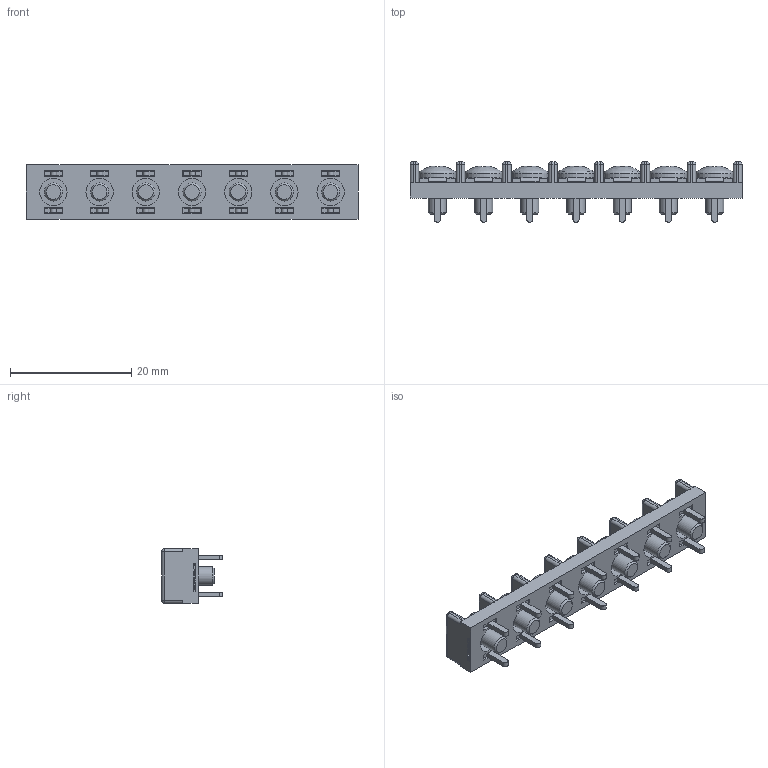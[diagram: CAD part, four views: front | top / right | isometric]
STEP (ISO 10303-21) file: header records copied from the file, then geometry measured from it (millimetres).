
FILE_DESCRIPTION(/* description */ ('Alibre Inc.'),/* implementation_level */ '2;1');
FILE_NAME(/* name */ 'export0',/* time_stamp */ '2015-11-28T15:41:59+09:00',/* author */ (''),/* organization */ (''),/* preprocessor_version */ 'ST-DEVELOPER v14',/* originating_system */ 'Alibre',/* authorisation */ '');
FILE_SCHEMA (('CONFIG_CONTROL_DESIGN'));
Length unit declared in the file: centimetre
Products named in the file (1): ID_1
Bounding box: 54.76 x 10 x 9 mm (x, y, z)
Volume: 2045.6 mm3; surface area: 3763.5 mm2
Topology: 1 solids, 97 shells, 1935 faces, 4987 edges, 3262 vertices
Faces by surface type: plane 1370, bspline 364, cylinder 120, sphere 39, cone 35, torus 7
Full cylindrical faces by diameter (mm): 3 x14, 4.5 x7, 6.1 x7
Entity records: 56084 total; most frequent: CARTESIAN_POINT 13419, ORIENTED_EDGE 9798, DIRECTION 6133, EDGE_CURVE 4899, VECTOR 3661, LINE 3661, VERTEX_POINT 3248, EDGE_LOOP 2101
